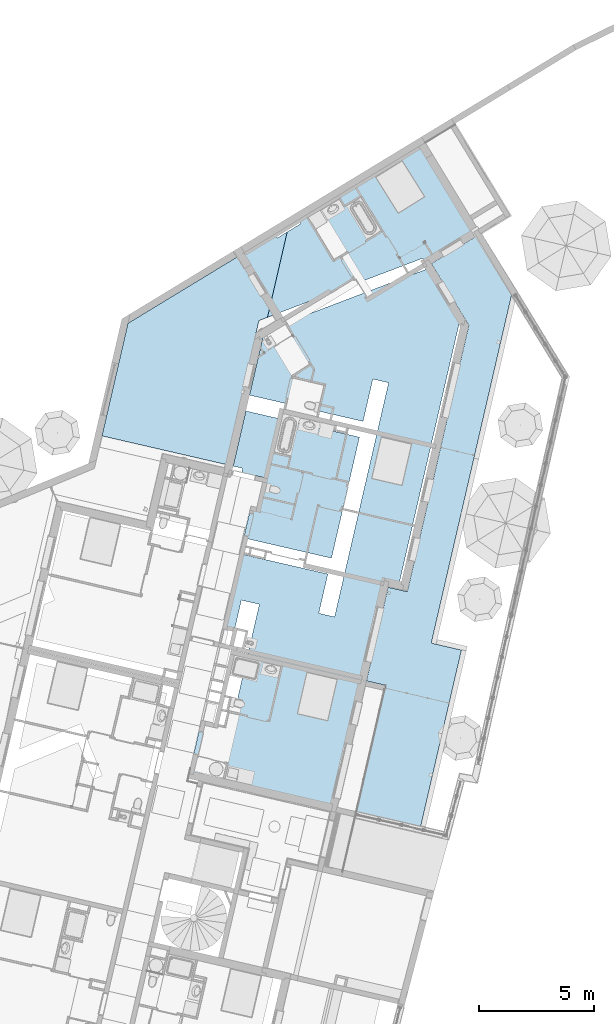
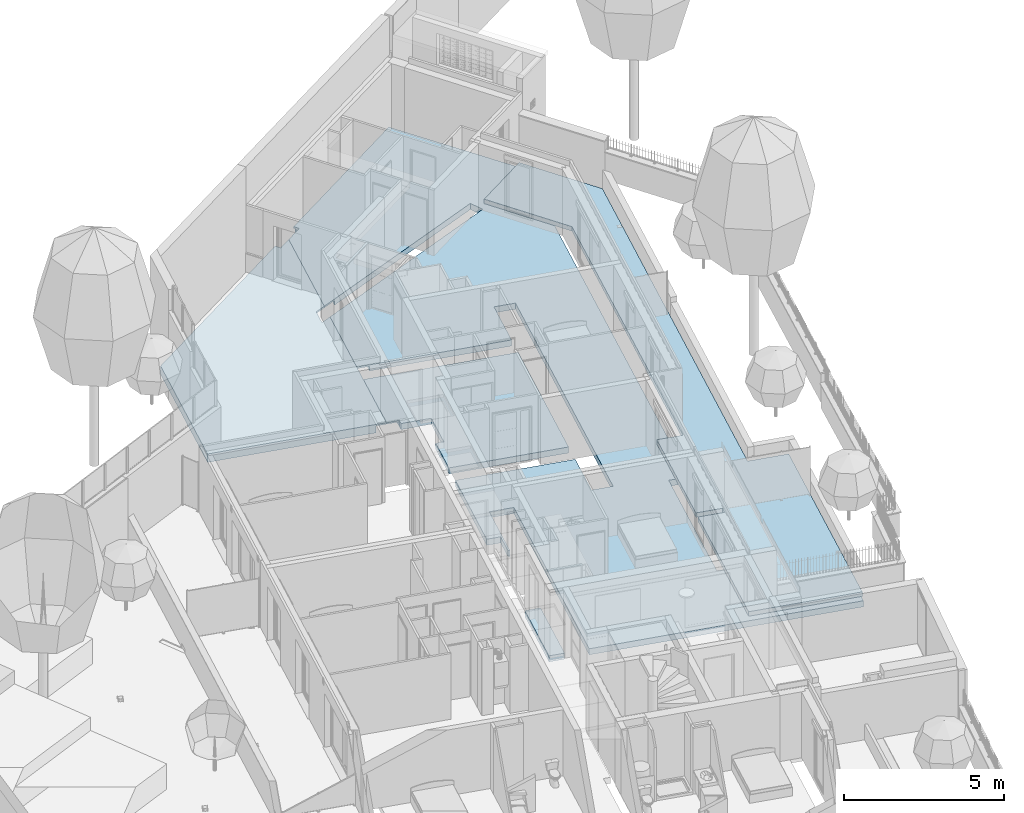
# One storey, part 6 of 119: 3 slabs.
"""IFC2X3 building model written with IfcOpenShell, lengths in metres."""

from ifc_helpers import new_model, entity, si_unit, converted_unit, derived_unit, money_unit, direction, frame, origin_with_axes, place, context, subcontext, project, spatial, faceted_brep, material, material_list, type_object, element, save


model = new_model("IFC2X3")

# Units and contexts
model_context = context("Model", 3, precision=1e-05, world=origin_with_axes(), true_north=direction((0.0, 1.0)))
body_context = subcontext(model_context, "Body", "Model", "MODEL_VIEW")
ifc_project = project(units=[si_unit("LENGTHUNIT", "METRE"), si_unit("AREAUNIT", "SQUARE_METRE"), si_unit("VOLUMEUNIT", "CUBIC_METRE"), converted_unit("PLANEANGLEUNIT", "DEGREE", entity("IfcPlaneAngleMeasure", 0.0174532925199), si_unit("PLANEANGLEUNIT", "RADIAN"), dimensions=[0, 0, 0, 0, 0, 0, 0]), si_unit("SOLIDANGLEUNIT", "STERADIAN"), money_unit("EUR"), converted_unit("TIMEUNIT", "Year", entity("IfcTimeMeasure", 31556926.0), si_unit("TIMEUNIT", "SECOND"), dimensions=[0, 0, 1, 0, 0, 0, 0]), si_unit("MASSUNIT", "GRAM", prefix="KILO"), si_unit("THERMODYNAMICTEMPERATUREUNIT", "DEGREE_CELSIUS"), si_unit("LUMINOUSINTENSITYUNIT", "LUMEN"), si_unit("ENERGYUNIT", "JOULE", prefix="MEGA"), derived_unit("THERMALCONDUCTANCEUNIT", [(si_unit("POWERUNIT", "WATT"), 1), (si_unit("LENGTHUNIT", "METRE"), -1), (si_unit("THERMODYNAMICTEMPERATUREUNIT", "KELVIN"), -1)]), derived_unit("SPECIFICHEATCAPACITYUNIT", [(si_unit("ENERGYUNIT", "JOULE"), 1), (si_unit("MASSUNIT", "GRAM", prefix="KILO"), -1), (si_unit("THERMODYNAMICTEMPERATUREUNIT", "KELVIN"), -1)]), derived_unit("MASSDENSITYUNIT", [(si_unit("MASSUNIT", "GRAM", prefix="KILO"), 1), (si_unit("VOLUMEUNIT", "CUBIC_METRE"), -1)])], contexts=[model_context])

# Site, building, storey
site_placement = place(None, origin_with_axes())
site = spatial("IfcSite", under=ifc_project, at=site_placement, Name="Site", CompositionType="ELEMENT")
building_placement = place(site_placement, origin_with_axes())
building = spatial("IfcBuilding", under=site, at=building_placement, Name="Bâtiment", CompositionType="ELEMENT")
storey_placement = place(building_placement, origin_with_axes())
storey = spatial("IfcBuildingStorey", under=building, at=storey_placement, Name="Rez-de-chaussée", CompositionType="ELEMENT", Elevation=0.0)

# Slabs
ifc_material_1 = material(Name="Finition sol - Dalles terrasse")
ifc_material_2 = material(Name="Divers - Vide")
ifc_material_list = material_list([ifc_material_1, ifc_material_2])
slab_type_1 = type_object("IfcSlabType", Name="6 -Dalles sur plots terrasse du RDC 170", PredefinedType="FLOOR")
slab_1_placement = place(storey_placement, frame((-3.31763265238, -2.89072694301, 0.180000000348), z_axis=(0.0, 0.0, 1.0), x_axis=(1.0, 0.0, 0.0)))
element("IfcSlab", 1, at=slab_1_placement, inside=storey, type_object=slab_type_1, material=ifc_material_list, Name="Dalle_006", PredefinedType="FLOOR", context=body_context, shape_type="Brep", body=[
    faceted_brep([(1.22126398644, 5.2463491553, -0.0463667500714), (1.22246646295, 5.24607163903, -0.0463667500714), (1.22246646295, 5.24607163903, -0.0170688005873), (1.21132025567, 5.24864404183, -0.0136751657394), (1.21132025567, 5.24864404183, 0.0), (2.05982520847, 5.05281989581, 0.0), (2.05982520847, 5.05281989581, -0.05), (1.21132025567, 5.24864404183, -0.05), (1.21132025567, 5.24864404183, -0.015085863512), (1.22126398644, 5.2463491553, -0.0181473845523), (0.0099437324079, -0.00229488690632, -0.0463667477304), (0.0111462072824, -0.00257240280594, -0.0463667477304), (0.0111462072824, -0.00257240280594, -0.0170687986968), (0.0, 0.0, -0.0136751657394), (0.0, 0.0, 0.0), (7.55172734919, 22.193118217, 0.0), (6.01494161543, 24.7212235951, 0.0), (4.07571670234, 23.5416216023, 0.0), (5.69612412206, 20.8755865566, 0.0), (3.03264079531, 9.33472787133, 0.0), (2.19875165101, 9.52717887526, 0.0), (1.2630417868, 5.47275314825, 0.0), (2.11154673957, 5.27692900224, 0.0), (3.61242889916, -0.833702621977, 0.0), (5.37561991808, 6.80619441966, 0.0), (4.07015386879, 7.10747937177, 0.0), (2.11154673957, 5.27692900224, -0.05), (6.01494161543, 24.7212235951, -0.05), (7.55172734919, 22.193118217, -0.05), (4.07015386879, 7.10747937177, -0.05), (5.37561991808, 6.80619441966, -0.05), (3.61242889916, -0.833702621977, -0.05), (0.0, 0.0, -0.05), (1.2630417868, 5.47275314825, -0.05), (2.19875165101, 9.52717887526, -0.05), (3.03264079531, 9.33472787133, -0.05), (5.69612412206, 20.8755865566, -0.05), (4.07571670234, 23.5416216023, -0.05), (0.0, 0.0, -0.015085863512), (0.0099437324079, -0.00229488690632, -0.0181473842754), (6.01494161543, 24.7212235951, -0.0150858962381), (6.02024249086, 24.7125033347, -0.0181473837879), (6.02024249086, 24.7125033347, -0.0463667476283), (6.02088352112, 24.7114488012, -0.0463667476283), (6.02088352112, 24.7114488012, -0.0170687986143), (6.01494161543, 24.7212235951, -0.0136751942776), (4.07640830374, 23.542042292, -0.0139152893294), (4.07571670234, 23.5416216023, -0.0136751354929), (5.69612412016, 20.8755865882, -0.0136751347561), (3.03629145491, 9.35054615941, -0.018147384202), (3.03858635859, 9.36048996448, -0.0150858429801), (5.69612411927, 20.8755865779, -0.0150858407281), (3.03858636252, 9.36048998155, -0.0136751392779), (3.03601393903, 9.34934368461, -0.0170688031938), (3.03601393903, 9.34934368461, -0.0463667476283), (3.03629145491, 9.35054615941, -0.0463667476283), (2.20869542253, 9.52488397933, -0.0463667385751), (2.20989789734, 9.52460646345, -0.0463667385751), (2.20989789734, 9.52460646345, -0.0170687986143), (2.19875165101, 9.52717887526, -0.0136751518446), (2.19875165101, 9.52717887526, -0.0150858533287), (2.20869542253, 9.52488397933, -0.0181473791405), (1.2630417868, 5.47275314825, -0.0136751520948), (1.27298555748, 5.47045825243, -0.0181473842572), (1.2630417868, 5.47275314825, -0.0150858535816), (1.27418803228, 5.47018073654, -0.0170687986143), (1.27418803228, 5.47018073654, -0.0463667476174), (1.27298555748, 5.47045825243, -0.0463667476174), (4.07571670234, 23.5416216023, -0.0150858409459), (4.07640830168, 23.542042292, -0.0153286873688), (4.08047718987, 23.5445173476, -0.0153281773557), (4.08850452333, 23.5426065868, -0.0170687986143), (4.09037187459, 23.5395342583, -0.0181473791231), (4.08931730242, 23.5388932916, -0.0181473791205), (4.08931730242, 23.5388932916, -0.0463667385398), (4.09037187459, 23.5395342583, -0.0463667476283), (5.70700181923, 20.8773382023, -0.0463667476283), (3.04623525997, 9.34825125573, -0.0463667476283), (3.04595774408, 9.34704878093, -0.0463667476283), (3.04716022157, 9.34677127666, -0.0463667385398), (5.70831723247, 20.8775500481, -0.0463667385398), (5.70739926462, 20.879060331, -0.0463667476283), (4.09101284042, 23.5384796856, -0.0463667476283), (4.09101284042, 23.5384796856, -0.0170687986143), (5.70472494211, 20.8834603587, -0.0170688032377), (5.70831724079, 20.8775500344, -0.0170688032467), (3.04623525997, 9.34825125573, -0.0181473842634), (5.70700181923, 20.8773382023, -0.0181473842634), (3.04716022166, 9.34677127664, -0.0170688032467), (3.04245454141, 9.34785727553, -0.0170688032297)], [[[0, 1, 2, 3, 4, 5, 6, 7, 8, 9]], [[1, 0, 10, 11]], [[2, 1, 11, 12]], [[3, 2, 12, 13]], [[3, 13, 14, 4]], [[15, 16, 17, 18, 19, 20, 21, 22, 5, 4, 14, 23, 24, 25]], [[26, 6, 5, 22]], [[27, 28, 29, 30, 31, 32, 7, 6, 26, 33, 34, 35, 36, 37]], [[38, 8, 7, 32]], [[9, 8, 38, 39]], [[0, 9, 39, 10]], [[39, 38, 32, 31, 23, 14, 13, 12, 11, 10]], [[16, 15, 28, 27, 40, 41, 42, 43, 44, 45]], [[16, 45, 46, 47, 17]], [[47, 48, 18, 17]], [[49, 50, 51, 36, 35, 19, 18, 48, 52, 53, 54, 55]], [[56, 57, 58, 59, 20, 19, 35, 34, 60, 61]], [[59, 62, 21, 20]], [[63, 64, 33, 26, 22, 21, 62, 65, 66, 67]], [[31, 30, 24, 23]], [[30, 29, 25, 24]], [[28, 15, 25, 29]], [[64, 60, 34, 33]], [[51, 68, 37, 36]], [[40, 27, 37, 68, 69, 70]], [[41, 40, 70, 71, 72]], [[42, 41, 72, 73, 74, 75]], [[43, 42, 75, 74, 76, 77, 55, 54, 78, 79, 80, 81, 82]], [[44, 43, 82, 83]], [[45, 44, 83, 46]], [[46, 83, 84, 85, 48, 47]], [[86, 50, 49]], [[50, 86, 87, 51]], [[52, 48, 85, 88]], [[89, 53, 52, 88]], [[89, 88, 79, 78, 54, 53]], [[77, 86, 49, 55]], [[57, 56, 67, 66]], [[58, 57, 66, 65]], [[59, 58, 65, 62]], [[61, 60, 64, 63]], [[56, 61, 63, 67]], [[51, 87, 73, 69, 68]], [[71, 70, 69, 73, 72]], [[87, 76, 74, 73]], [[86, 77, 76, 87]], [[79, 88, 85, 80]], [[83, 82, 81, 80, 85, 84]]]),
    faceted_brep([(7.55172734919, 22.193118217, -0.17), (7.55172734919, 22.193118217, -0.05), (4.07015386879, 7.10747937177, -0.05), (4.07015386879, 7.10747937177, -0.17), (6.01494161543, 24.7212235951, -0.05), (6.01494161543, 24.7212235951, -0.17), (4.07571670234, 23.5416216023, -0.05), (5.69612412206, 20.8755865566, -0.05), (3.03264079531, 9.33472787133, -0.05), (2.19875165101, 9.52717887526, -0.05), (1.2630417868, 5.47275314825, -0.05), (2.11154673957, 5.27692900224, -0.05), (2.05982520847, 5.05281989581, -0.05), (1.21132025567, 5.24864404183, -0.05), (0.0, 0.0, -0.05), (3.61242889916, -0.833702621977, -0.05), (5.37561991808, 6.80619441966, -0.05), (5.37561991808, 6.80619441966, -0.17), (3.61242889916, -0.833702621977, -0.17), (0.0, 0.0, -0.17), (1.21132025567, 5.24864404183, -0.17), (2.05982520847, 5.05281989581, -0.17), (2.11154673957, 5.27692900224, -0.17), (1.2630417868, 5.47275314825, -0.17), (2.19875165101, 9.52717887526, -0.17), (3.03264079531, 9.33472787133, -0.17), (5.69612412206, 20.8755865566, -0.17), (4.07571670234, 23.5416216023, -0.17)], [[[0, 1, 2, 3]], [[4, 1, 0, 5]], [[1, 4, 6, 7, 8, 9, 10, 11, 12, 13, 14, 15, 16, 2]], [[16, 17, 3, 2]], [[5, 0, 3, 17, 18, 19, 20, 21, 22, 23, 24, 25, 26, 27]], [[4, 5, 27, 6]], [[6, 27, 26, 7]], [[7, 26, 25, 8]], [[8, 25, 24, 9]], [[9, 24, 23, 10]], [[10, 23, 22, 11]], [[11, 22, 21, 12]], [[12, 21, 20, 13]], [[13, 20, 19, 14]], [[14, 19, 18, 15]], [[15, 18, 17, 16]]]),
])
ifc_material_3 = material(Name="Béton")
slab_type_2 = type_object("IfcSlabType", Name="Béton 320", PredefinedType="FLOOR")
slab_2_placement = place(storey_placement, frame((-7.88738787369, 11.6144549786, 0.0), z_axis=(0.0, 0.0, 1.0), x_axis=(1.0, 0.0, 0.0)))
element("IfcSlab", 2, at=slab_2_placement, inside=storey, type_object=slab_type_2, material=ifc_material_3, Name="Dalle alvéolaire préfabriquée", PredefinedType="FLOOR", context=body_context, shape_type="Brep", body=[
    faceted_brep([(1.54832011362, 6.70886258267, -6.35514801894e-09), (1.54832011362, 6.70886258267, -0.06), (2.4020922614, 10.4082526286, -0.06), (2.4020922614, 10.4082526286, 0.0), (1.17702263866, 6.56750677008, -6.70553118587e-09), (1.17702263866, 6.56750677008, -0.06), (-0.263796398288, 0.340157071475, -0.06), (1.99603143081, 10.1614501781, -0.06), (1.04165570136, 5.98096257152, -0.06), (1.41295317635, 6.12231838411, -0.06), (0.770516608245, 3.33864424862, -0.06), (0.44896878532, 3.41285339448, -0.06), (0.291555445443, 2.73078225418, -0.06), (0.613103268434, 2.65657310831, -0.06), (0.0611940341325, 0.265153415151, -0.06), (1.99603143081, 10.1614501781, -0.32), (1.96063780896, 10.1399380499, -0.32), (1.96063780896, 10.1399380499, 0.0), (1.41295317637, 6.12231838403, -6.36994273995e-09), (1.04165570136, 5.98096257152, -6.70553118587e-09), (1.8567605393, 10.3108459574, 0.0), (-4.49454334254, 6.45054413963, 0.0), (-5.61948417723, 1.57618166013, 0.0), (0.0611940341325, 0.265153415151, 0.0), (-0.263796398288, 0.340157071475, -0.32), (0.770516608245, 3.33864424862, -0.32), (0.613103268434, 2.65657310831, -0.32), (0.44896878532, 3.41285339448, -0.32), (0.291555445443, 2.73078225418, -0.32), (-5.61948417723, 1.57618166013, -0.32), (-4.49454334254, 6.45054413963, -0.32), (1.8567605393, 10.3108459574, -0.32)], [[[0, 1, 2, 3]], [[4, 5, 1, 0]], [[6, 7, 2, 1, 5, 8, 9, 10, 11, 12, 13, 14]], [[2, 7, 15, 16, 17, 3]], [[18, 19, 4, 0, 3, 17, 20, 21, 22, 23]], [[19, 8, 5, 4]], [[24, 15, 7, 6]], [[18, 9, 8, 19]], [[25, 10, 9, 18, 23, 14, 13, 26]], [[11, 10, 25, 27]], [[11, 27, 28, 12]], [[28, 26, 13, 12]], [[24, 6, 14, 23, 22, 29]], [[16, 15, 24, 29, 30, 31]], [[31, 20, 17, 16]], [[21, 20, 31, 30]], [[30, 29, 22, 21]], [[28, 27, 25, 26]]]),
])
slab_type_3 = type_object("IfcSlabType", Name="Béton 230", PredefinedType="FLOOR")
slab_3_placement = place(storey_placement, frame((-9.77403861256, -1.63158493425, 0.0), z_axis=(0.0, 0.0, 1.0), x_axis=(1.0, 0.0, 0.0)))
element("IfcSlab", 3, at=slab_3_placement, inside=storey, type_object=slab_type_3, material=ifc_material_3, Name="Pré-dalle préfabriquée pour dalle béton", PredefinedType="FLOOR", context=body_context, shape_type="Brep", body=[
    faceted_brep([(0.0, 0.0, 0.0), (0.497533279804, -0.114824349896, 0.0), (1.07738830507, 2.39768429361, 0.0), (0.579855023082, 2.51250864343, 0.0), (0.0, 0.0, -0.23), (0.497533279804, -0.114824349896, -0.23), (1.07738830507, 2.39768429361, -0.23), (0.579855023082, 2.51250864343, -0.23)], [[[0, 1, 2, 3]], [[4, 5, 1, 0]], [[5, 6, 2, 1]], [[3, 2, 6, 7]], [[0, 3, 7, 4]], [[7, 6, 5, 4]]]),
    faceted_brep([(2.40338388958, 10.4029514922, 0.0), (6.20772740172, 9.52495741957, 0.0), (7.41766748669, 14.7676211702, 0.0), (2.49975399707, 15.9026130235, 0.0), (1.94784475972, 13.511193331, 0.0), (2.35708745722, 13.416745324, 0.0), (2.31613228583, 13.2392867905, 0.0), (3.27961511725, 13.0169272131, 0.0), (2.97916005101, 11.7155878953, 0.0), (2.72081423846, 11.7752108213, 0.0), (2.40338388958, 10.4029514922, -0.23), (6.20772740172, 9.52495741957, -0.23), (7.41766748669, 14.7676211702, -0.23), (2.90398159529, 15.8093224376, -0.23), (2.90398159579, 15.8093224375, -0.06), (2.49975399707, 15.9026130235, -0.06), (1.94784475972, 13.511193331, -0.06), (2.35364500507, 13.4175397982, -0.06), (2.35364500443, 13.4175397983, -0.23), (2.35708745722, 13.416745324, -0.23), (2.31613228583, 13.2392867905, -0.23), (3.27961511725, 13.0169272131, -0.23), (2.97916005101, 11.7155878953, -0.23), (2.72081423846, 11.7752108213, -0.23)], [[[0, 1, 2, 3, 4, 5, 6, 7, 8, 9]], [[10, 11, 1, 0]], [[11, 12, 2, 1]], [[3, 2, 12, 13, 14, 15]], [[3, 15, 16, 4]], [[16, 17, 18, 19, 5, 4]], [[20, 6, 5, 19]], [[7, 6, 20, 21]], [[8, 7, 21, 22]], [[9, 8, 22, 23]], [[23, 10, 0, 9]], [[13, 12, 11, 10, 23, 22, 21, 20, 19, 18]], [[17, 14, 13, 18]], [[16, 15, 14, 17]]]),
    faceted_brep([(8.67998188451, 17.124398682, -0.23), (7.99791074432, 17.2818120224, -0.23), (7.57508082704, 15.4496923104, -0.23), (3.06094639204, 16.4914970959, -0.23), (3.76353700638, 19.5449812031, -0.23), (10.3473544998, 22.0514913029, -0.23), (10.1694566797, 22.5187731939, -0.23), (3.89845873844, 20.1313559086, -0.23), (4.77740813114, 23.9513016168, -0.23), (4.87047228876, 24.0078657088, -0.23), (4.81240563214, 24.1034020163, -0.23), (4.84001626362, 24.2233988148, -0.23), (10.0450699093, 27.3870134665, -0.23), (14.012963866, 20.9549069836, -0.23), (10.526559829, 5.848337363, -0.23), (11.8320258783, 5.5470524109, -0.23), (9.98497629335, -2.30642188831, -0.23), (6.19631553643, -1.43003077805, -0.23), (1.27704315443, -0.294725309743, -0.23), (3.08296065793, 7.53030532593, -0.23), (2.30345078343, 7.71020628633, -0.23), (1.81004382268, 5.57227663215, -0.23), (1.75087822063, 5.58593130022, -0.23), (1.79097453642, 5.75926867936, -0.23), (1.92874801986, 6.35615356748, -0.23), (1.48551432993, 6.45868216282, -0.23), (2.24513349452, 9.72107353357, -0.23), (6.05031406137, 8.84288627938, -0.23), (5.65762412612, 7.14136294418, -0.23), (6.33969526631, 6.98394960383, -0.23), (12.143801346, 21.4564227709, -0.23), (8.67913372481, 6.44403697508, -0.23), (9.361204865, 6.28662363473, -0.23), (12.8258724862, 21.2990094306, -0.23), (8.00232691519, 6.39497819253, -0.23), (6.84691299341, 1.38857600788, -0.23), (7.62642286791, 1.20867504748, -0.23), (8.78183678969, 6.21507723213, -0.23), (8.67998188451, 17.124398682, 0.0), (7.99791074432, 17.2818120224, 0.0), (7.57508082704, 15.4496923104, 0.0), (2.65716733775, 16.5846841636, 0.0), (2.65716733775, 16.5846841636, -0.06), (3.0609463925, 16.4914970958, -0.06), (3.76353700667, 19.5449812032, -0.06), (3.29960390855, 19.3683582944, -0.06), (3.29960390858, 19.3683582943, -6.36994273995e-09), (10.3473544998, 22.0514913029, 0.0), (10.1694566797, 22.5187731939, 0.0), (3.43497084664, 19.9549024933, -0.06), (3.89845873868, 20.1313559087, -0.06), (3.43497084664, 19.9549024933, -6.35514801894e-09), (4.77740813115, 23.9513016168, -0.06), (4.28874299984, 23.6542925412, -0.06), (4.28874299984, 23.6542925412, 0.0), (4.87047228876, 24.0078657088, 0.0), (4.7665950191, 24.1787736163, -0.06), (4.81240563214, 24.1034020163, -0.06), (4.7665950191, 24.1787736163, 0.0), (4.84001626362, 24.2233988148, -0.06), (10.0450699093, 27.3870134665, 0.0), (14.012963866, 20.9549069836, 0.0), (10.526559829, 5.848337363, 0.0), (11.8320258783, 5.5470524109, 0.0), (9.98497629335, -2.30642188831, 0.0), (6.19631553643, -1.43003077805, 0.0), (1.27704315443, -0.294725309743, 0.0), (3.08296065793, 7.53030532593, 0.0), (2.30345078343, 7.71020628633, 0.0), (1.81004382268, 5.57227663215, 0.0), (1.75087822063, 5.58593130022, 0.0), (1.79097453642, 5.75926867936, 0.0), (1.92874801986, 6.35615356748, 0.0), (1.48551432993, 6.45868216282, 0.0), (2.24513349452, 9.72107353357, 0.0), (6.05031406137, 8.84288627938, 0.0), (5.65762412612, 7.14136294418, 0.0), (6.33969526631, 6.98394960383, 0.0), (12.143801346, 21.4564227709, 0.0), (8.67913372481, 6.44403697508, 0.0), (9.361204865, 6.28662363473, 0.0), (12.8258724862, 21.2990094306, 0.0), (8.00232691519, 6.39497819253, 0.0), (6.84691299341, 1.38857600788, 0.0), (7.62642286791, 1.20867504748, 0.0), (8.78183678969, 6.21507723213, 0.0)], [[[0, 1, 2, 3, 4, 5, 6, 7, 8, 9, 10, 11, 12, 13, 14, 15, 16, 17, 18, 19, 20, 21, 22, 23, 24, 25, 26, 27, 28, 29], [30, 31, 32, 33], [34, 35, 36, 37]], [[0, 38, 39, 1]], [[1, 39, 40, 2]], [[3, 2, 40, 41, 42, 43]], [[43, 44, 4, 3]], [[4, 44, 45, 46, 47, 5]], [[5, 47, 48, 6]], [[49, 50, 7, 6, 48, 51]], [[50, 52, 8, 7]], [[8, 52, 53, 54, 55, 9]], [[56, 57, 10, 9, 55, 58]], [[57, 59, 11, 10]], [[11, 59, 56, 58, 60, 12]], [[60, 61, 13, 12]], [[61, 62, 14, 13]], [[62, 63, 15, 14]], [[63, 64, 16, 15]], [[64, 65, 17, 16]], [[65, 66, 18, 17]], [[18, 66, 67, 19]], [[19, 67, 68, 20]], [[20, 68, 69, 21]], [[22, 21, 69, 70]], [[70, 71, 23, 22]], [[71, 72, 24, 23]], [[72, 73, 25, 24]], [[73, 74, 26, 25]], [[74, 75, 27, 26]], [[28, 27, 75, 76]], [[28, 76, 77, 29]], [[29, 77, 38, 0]], [[30, 78, 79, 31]], [[31, 79, 80, 32]], [[32, 80, 81, 33]], [[33, 81, 78, 30]], [[34, 82, 83, 35]], [[35, 83, 84, 36]], [[36, 84, 85, 37]], [[37, 85, 82, 34]], [[41, 40, 39, 38, 77, 76, 75, 74, 73, 72, 71, 70, 69, 68, 67, 66, 65, 64, 63, 62, 61, 60, 58, 55, 54, 51, 48, 47, 46], [80, 79, 78, 81], [84, 83, 82, 85]], [[46, 45, 42, 41]], [[42, 45, 44, 43]], [[49, 53, 52, 50]], [[54, 53, 49, 51]], [[57, 56, 59]]]),
])

save(model, "model.ifc")
